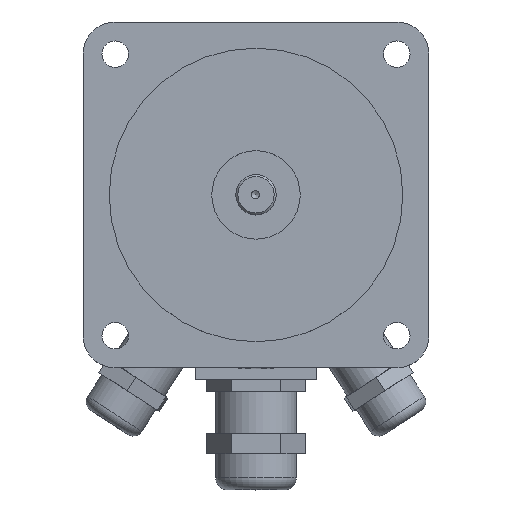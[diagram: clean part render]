
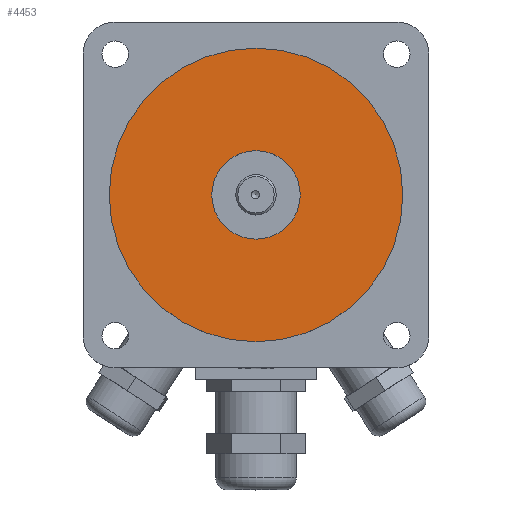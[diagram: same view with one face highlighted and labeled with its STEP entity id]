
A CAD part, top view. The second image highlights one B-rep face of the part: STEP entity #4453.
In plain terms, the highlighted planar face has unit normal (0, 0, 1).
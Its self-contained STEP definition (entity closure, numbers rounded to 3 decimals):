
#4426=CARTESIAN_POINT('',(0.0,0.0,54.5));
#4427=DIRECTION('',(0.0,0.0,-1.0));
#4428=DIRECTION('',(1.0,0.0,0.0));
#4429=AXIS2_PLACEMENT_3D('',#4426,#4427,#4428);
#4430=PLANE('',#4429);
#4431=CARTESIAN_POINT('',(-36.5,0.,54.5));
#4432=VERTEX_POINT('',#4431);
#4433=CARTESIAN_POINT('',(0.0,0.0,54.5));
#4434=DIRECTION('',(0.0,0.0,-1.0));
#4435=DIRECTION('',(1.0,0.0,0.0));
#4436=AXIS2_PLACEMENT_3D('',#4433,#4434,#4435);
#4437=CIRCLE('',#4436,36.5);
#4438=EDGE_CURVE('',#4432,#4432,#4437,.T.);
#4439=ORIENTED_EDGE('',*,*,#4438,.F.);
#4440=EDGE_LOOP('',(#4439));
#4441=FACE_OUTER_BOUND('',#4440,.T.);
#4442=CARTESIAN_POINT('',(-11.0,0.,54.5));
#4443=VERTEX_POINT('',#4442);
#4444=CARTESIAN_POINT('',(0.0,0.0,54.5));
#4445=DIRECTION('',(0.0,0.0,-1.0));
#4446=DIRECTION('',(1.0,0.0,0.0));
#4447=AXIS2_PLACEMENT_3D('',#4444,#4445,#4446);
#4448=CIRCLE('',#4447,11.0);
#4449=EDGE_CURVE('',#4443,#4443,#4448,.T.);
#4450=ORIENTED_EDGE('',*,*,#4449,.T.);
#4451=EDGE_LOOP('',(#4450));
#4452=FACE_BOUND('',#4451,.T.);
#4453=ADVANCED_FACE('',(#4441,#4452),#4430,.F.);
